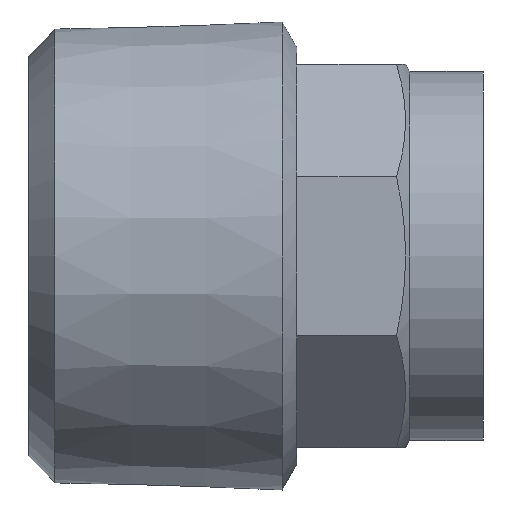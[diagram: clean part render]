
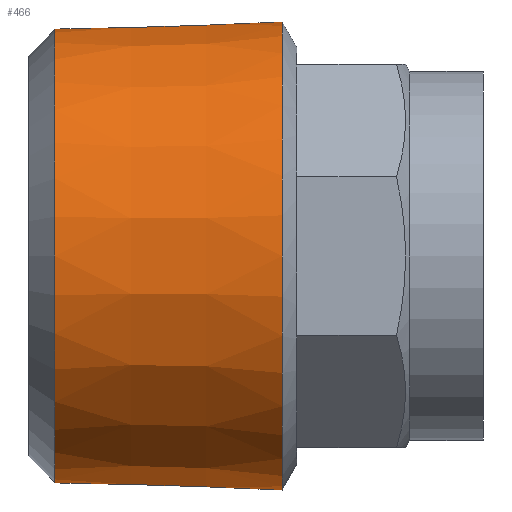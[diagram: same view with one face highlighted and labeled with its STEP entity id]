
A CAD part, front view. The second image highlights one B-rep face of the part: STEP entity #466.
In plain terms, the highlighted conical face has half-angle 1.79 degrees and reference radius 13.152 mm.
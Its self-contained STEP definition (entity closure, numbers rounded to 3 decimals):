
#415=CARTESIAN_POINT('',(1.499,12.972,0.));
#416=VERTEX_POINT('',#415);
#417=CARTESIAN_POINT('',(1.499,0.0,0.));
#418=DIRECTION('',(-1.0,0.0,0.0));
#419=DIRECTION('',(0.0,-1.0,0.0));
#420=AXIS2_PLACEMENT_3D('',#417,#418,#419);
#421=CIRCLE('',#420,12.972);
#422=EDGE_CURVE('',#416,#416,#421,.T.);
#447=CARTESIAN_POINT('',(7.25,0.0,0.0));
#448=DIRECTION('',(1.0,0.0,0.0));
#449=DIRECTION('',(0.0,1.0,0.0));
#450=AXIS2_PLACEMENT_3D('',#447,#448,#449);
#451=CONICAL_SURFACE('',#450,13.152,1.79);
#452=CARTESIAN_POINT('',(14.5,13.378,0.0));
#453=VERTEX_POINT('',#452);
#454=CARTESIAN_POINT('',(14.5,0.0,0.0));
#455=DIRECTION('',(1.0,0.0,0.0));
#456=DIRECTION('',(0.0,1.0,0.0));
#457=AXIS2_PLACEMENT_3D('',#454,#455,#456);
#458=CIRCLE('',#457,13.378);
#459=EDGE_CURVE('',#453,#453,#458,.T.);
#460=ORIENTED_EDGE('',*,*,#459,.F.);
#461=EDGE_LOOP('',(#460));
#462=FACE_OUTER_BOUND('',#461,.T.);
#463=ORIENTED_EDGE('',*,*,#422,.F.);
#464=EDGE_LOOP('',(#463));
#465=FACE_BOUND('',#464,.T.);
#466=ADVANCED_FACE('',(#462,#465),#451,.T.);
